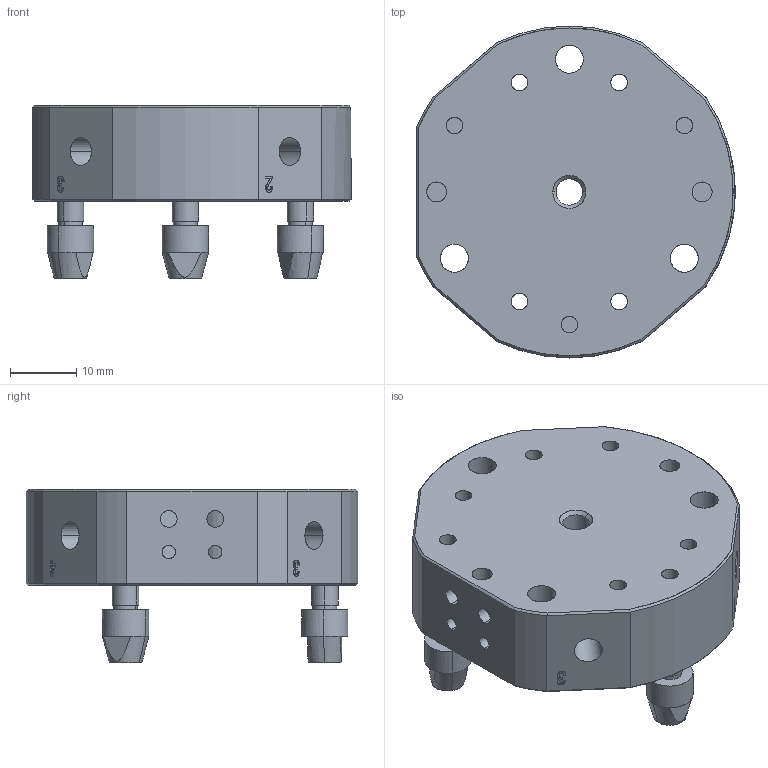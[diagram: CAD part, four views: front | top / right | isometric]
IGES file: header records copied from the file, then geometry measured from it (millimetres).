
Start section: SolidWorks IGES file using analytic representation for surfaces
Global section: file name: \\ss-share1\SHARE\030eins事業部\技術課\☆eins parts 量産図\3D\ﾁｬｯｸ交換\OM\web用データ\140383.IGS; native system: SolidWorks 2021; preprocessor: SolidWorks 2021; author: STAR050C; date: 231218.162914; units: millimetre
Bounding box: 48 x 50 x 26.2 mm (x, y, z)
Surface area: 10170.4 mm2 (no closed solid volume)
Topology: 0 solids, 0 shells, 189 faces, 3190 edges, 3190 vertices
Faces by surface type: revolution 118, bspline 71
